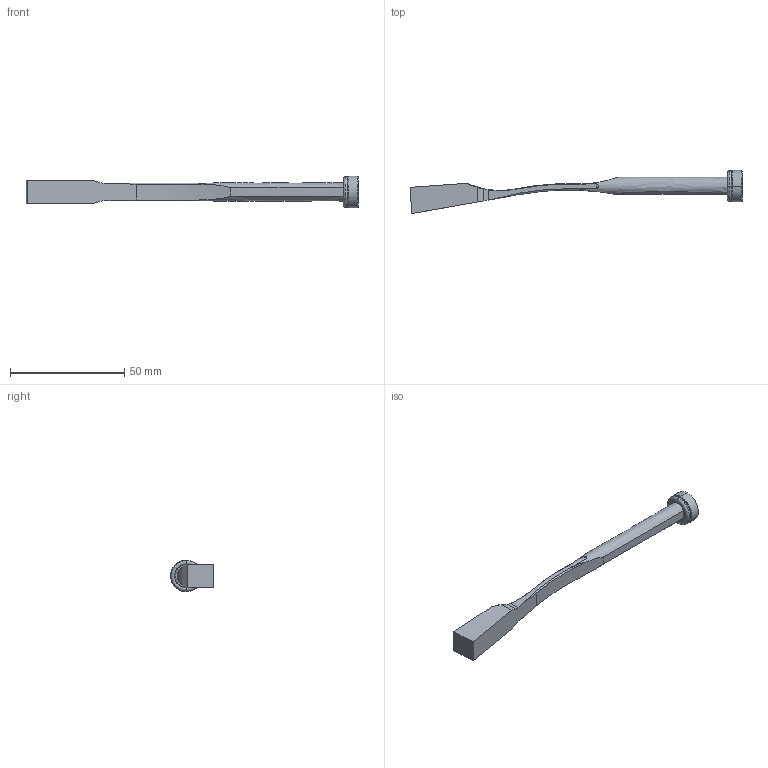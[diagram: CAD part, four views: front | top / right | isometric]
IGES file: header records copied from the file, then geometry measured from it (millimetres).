
Start section: START RECORD GO HERE.
Global section: file name: pw081025_ejection.igs; native system: DASSAULT SYSTEMES CATIA V5 R20 - www.3ds.com; preprocessor: CATIA Version 5 Release 20 ; author: Utente; organization: NB04-ASUS; date: 20201108.135255; units: millimetre
Bounding box: 145.52 x 18.87 x 13.8 mm (x, y, z)
Surface area: 5755 mm2 (no closed solid volume)
Topology: 0 solids, 0 shells, 97 faces, 442 edges, 438 vertices
Faces by surface type: revolution 60, plane 33, bspline 4
